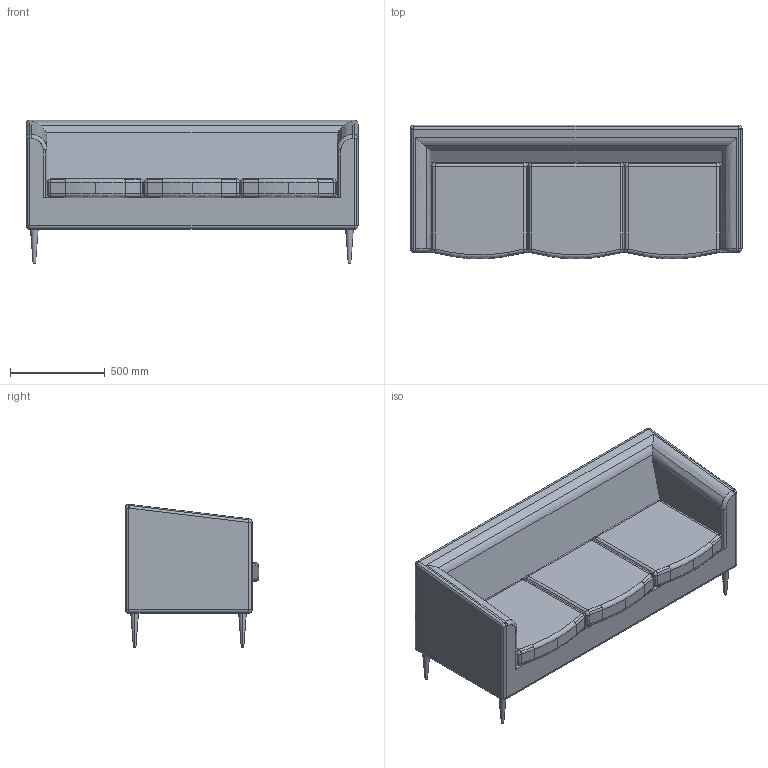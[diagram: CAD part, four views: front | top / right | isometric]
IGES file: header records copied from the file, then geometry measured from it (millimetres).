
Start section: IMSI TurboCAD v14.0
Global section: author: NULL; organization: NULL; date: 20120103.141421; units: millimetre
Bounding box: 1750 x 704.66 x 755.63 mm (x, y, z)
Surface area: 7194900.8 mm2 (no closed solid volume)
Topology: 0 solids, 0 shells, 216 faces, 1006 edges, 974 vertices
Faces by surface type: revolution 174, extrusion 40, bspline 2
